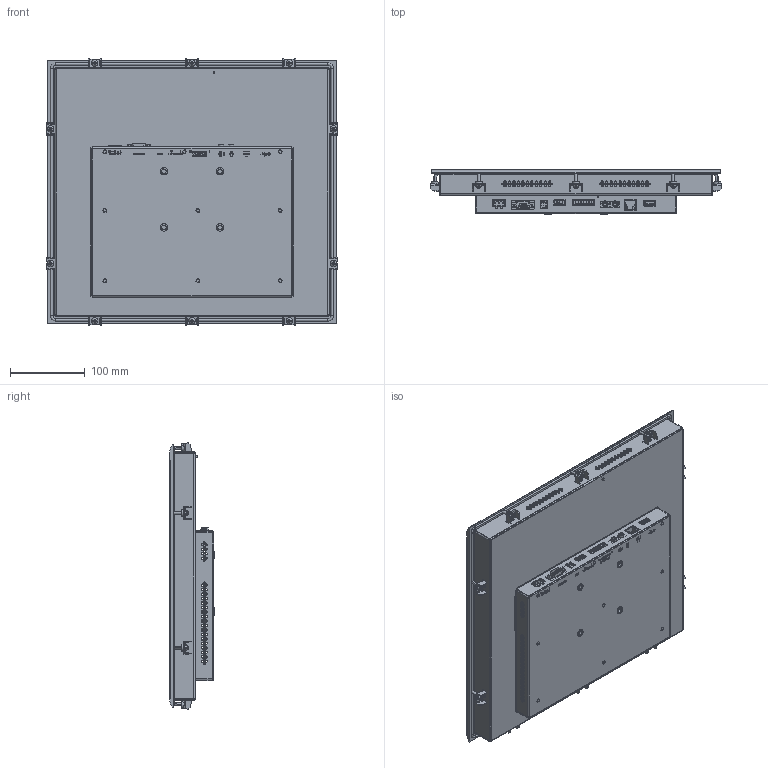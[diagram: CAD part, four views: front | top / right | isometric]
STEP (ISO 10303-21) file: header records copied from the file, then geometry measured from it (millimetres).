
FILE_DESCRIPTION (( 'STEP AP214' ), '1' );
FILE_NAME ('ﾏﾋﾊ17 ﾌ瑕褪.STEP', '2025-05-24T22:19:41', ( '' ), ( '' ), 'SwSTEP 2.0', 'SolidWorks 2021', '' );
FILE_SCHEMA (( 'AUTOMOTIVE_DESIGN' ));
Length unit declared in the file: millimetre
Products named in the file (1): ﾏﾋﾊ17 ﾌ瑕褪
Bounding box: 389.45 x 59.7 x 355.95 mm (x, y, z)
Surface area: 583777.6 mm2 (no closed solid volume)
Topology: 0 solids, 193 shells, 1661 faces, 11062 edges, 9473 vertices
Faces by surface type: plane 834, cylinder 686, cone 54, torus 45, bspline 42
Entity records: 128601 total; most frequent: CARTESIAN_POINT 33202, DIRECTION 14399, ORIENTED_EDGE 13678, EDGE_CURVE 11064, VERTEX_POINT 9473, VECTOR 5571, LINE 5571, AXIS2_PLACEMENT_3D 4414
